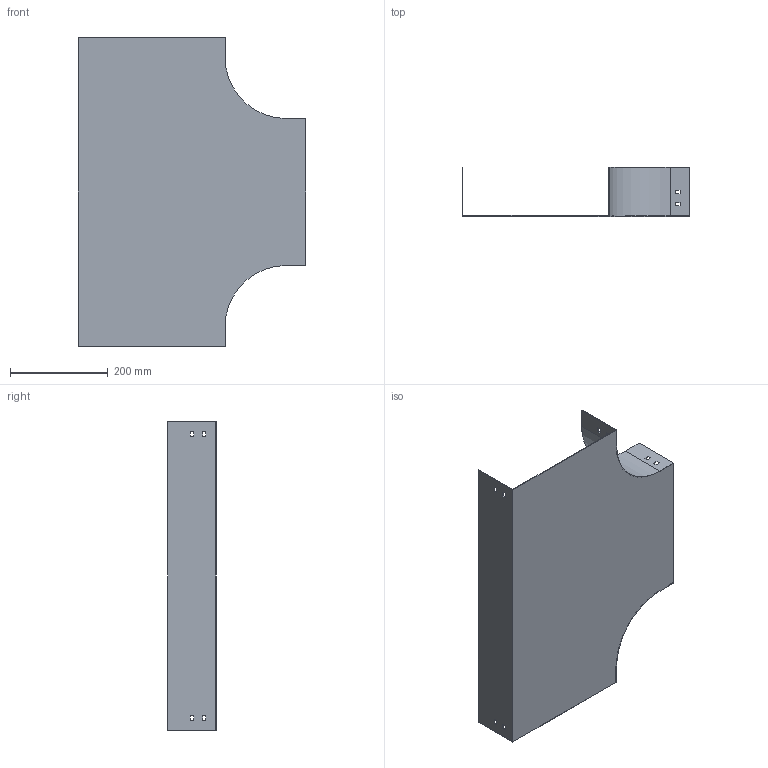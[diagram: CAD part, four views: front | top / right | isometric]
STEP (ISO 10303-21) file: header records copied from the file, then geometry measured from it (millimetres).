
FILE_DESCRIPTION (( 'STEP AP214' ), '1' );
FILE_NAME ('PT_301.step', '2025-07-16T09:23:46', ( '' ), ( '' ), 'SwSTEP 2.0', 'SolidWorks 2023', '' );
FILE_SCHEMA (( 'AUTOMOTIVE_DESIGN' ));
Length unit declared in the file: millimetre
Products named in the file (1): PT_301
Bounding box: 465 x 100 x 630 mm (x, y, z)
Volume: 541641.4 mm3; surface area: 726811.1 mm2
Topology: 1 solids, 1 shells, 70 faces, 204 edges, 136 vertices
Faces by surface type: plane 66, cylinder 4
Entity records: 2347 total; most frequent: CARTESIAN_POINT 411, ORIENTED_EDGE 408, DIRECTION 354, EDGE_CURVE 204, LINE 196, VECTOR 196, VERTEX_POINT 136, EDGE_LOOP 94
